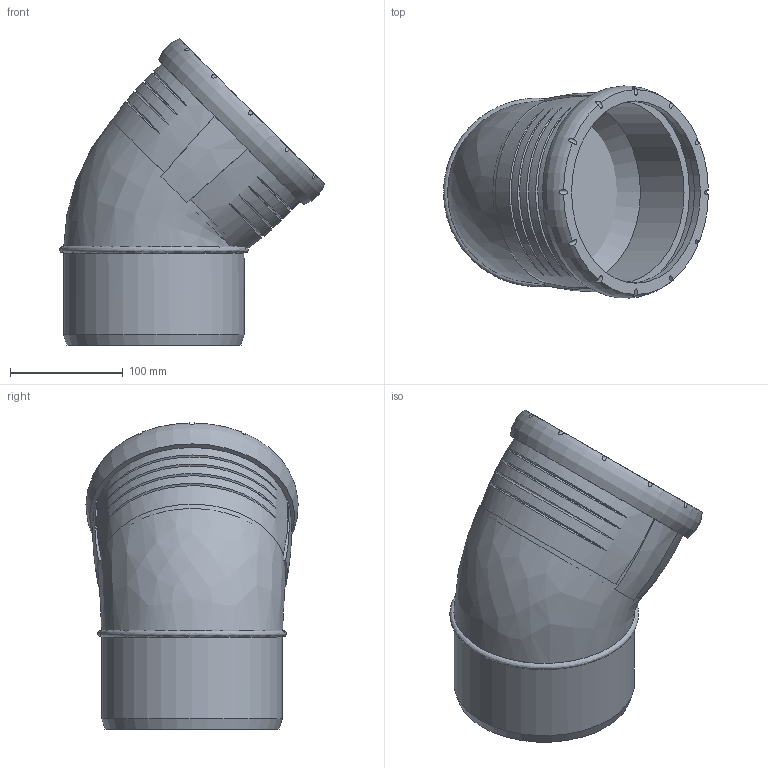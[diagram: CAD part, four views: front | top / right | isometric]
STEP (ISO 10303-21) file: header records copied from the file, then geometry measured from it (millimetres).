
FILE_DESCRIPTION(/* description */ (''),/* implementation_level */ '2;1');
FILE_NAME(/* name */ 'H:\Geberit-Teile\Export\Bogen_TEST\stp\393722.stp',/* time_stamp */ '2017-02-14T10:17:28+01:00',/* author */ ('seihe2'),/* organization */ (''),/* preprocessor_version */ 'ST-DEVELOPER v15.2',/* originating_system */ 'Autodesk Inventor 2014',/* authorisation */ '');
FILE_SCHEMA (('CONFIG_CONTROL_DESIGN','AUTOMOTIVE_DESIGN { 1 0 10303 214 3 1 1 }'));
Length unit declared in the file: millimetre
Products named in the file (1): 393722
Bounding box: 235.08 x 188.24 x 271.58 mm (x, y, z)
Volume: 1972701.4 mm3; surface area: 286730.3 mm2
Topology: 2 solids, 2 shells, 54 faces, 133 edges, 94 vertices
Faces by surface type: bspline 24, cylinder 19, plane 8, cone 2, torus 1
Full cylindrical faces by diameter (mm): 148.25 x1, 160.25 x1, 161.2 x1, 161.7 x1, 174.9 x1
Entity records: 4182 total; most frequent: CARTESIAN_POINT 3008, ORIENTED_EDGE 246, DIRECTION 172, EDGE_CURVE 122, VERTEX_POINT 91, AXIS2_PLACEMENT_3D 86, EDGE_LOOP 76, B_SPLINE_CURVE_WITH_KNOTS 67
